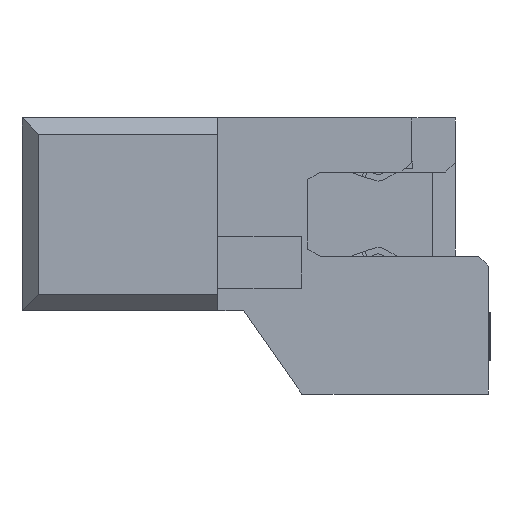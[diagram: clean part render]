
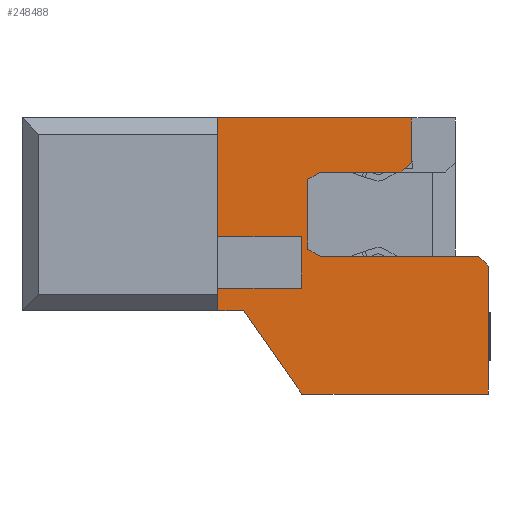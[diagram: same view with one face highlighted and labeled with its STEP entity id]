
A CAD part, left-side view. The second image highlights one B-rep face of the part: STEP entity #248488.
In plain terms, the highlighted planar face has unit normal (-1, 0, 0).
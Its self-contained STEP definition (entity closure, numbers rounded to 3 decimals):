
#3375 = VECTOR ( 'NONE', #8457, 1000. ) ;
#3383 = VECTOR ( 'NONE', #8533, 1000. ) ;
#3387 = LINE ( 'NONE', #8649, #3416 ) ;
#3390 = LINE ( 'NONE', #8492, #3375 ) ;
#3394 = VECTOR ( 'NONE', #8663, 1000. ) ;
#3396 = LINE ( 'NONE', #8440, #3394 ) ;
#3398 = LINE ( 'NONE', #8417, #3406 ) ;
#3401 = LINE ( 'NONE', #8279, #3426 ) ;
#3406 = VECTOR ( 'NONE', #8466, 1000. ) ;
#3407 = LINE ( 'NONE', #8551, #3383 ) ;
#3416 = VECTOR ( 'NONE', #8653, 1000. ) ;
#3426 = VECTOR ( 'NONE', #8446, 1000. ) ;
#3435 = LINE ( 'NONE', #8987, #3479 ) ;
#3440 = LINE ( 'NONE', #9021, #3458 ) ;
#3444 = VECTOR ( 'NONE', #8625, 1000. ) ;
#3446 = VECTOR ( 'NONE', #8676, 1000. ) ;
#3447 = LINE ( 'NONE', #8548, #3444 ) ;
#3458 = VECTOR ( 'NONE', #8902, 1000. ) ;
#3479 = VECTOR ( 'NONE', #9024, 1000. ) ;
#3482 = VECTOR ( 'NONE', #8686, 1000. ) ;
#3484 = LINE ( 'NONE', #8573, #3482 ) ;
#3489 = LINE ( 'NONE', #8832, #3446 ) ;
#3497 = LINE ( 'NONE', #9018, #3508 ) ;
#3504 = VECTOR ( 'NONE', #9138, 1000. ) ;
#3508 = VECTOR ( 'NONE', #8940, 1000. ) ;
#3516 = LINE ( 'NONE', #8953, #3504 ) ;
#8279 = CARTESIAN_POINT ( 'NONE',  ( -36.5, 2.8, -0.7 ) ) ;
#8417 = CARTESIAN_POINT ( 'NONE',  ( -36.5, 2.8, 12.822 ) ) ;
#8440 = CARTESIAN_POINT ( 'NONE',  ( -36.5, 0., 12.822 ) ) ;
#8446 = DIRECTION ( 'NONE',  ( 0., 1., 0. ) ) ;
#8457 = DIRECTION ( 'NONE',  ( 0., 0., 1. ) ) ;
#8466 = DIRECTION ( 'NONE',  ( 0., 0., -1. ) ) ;
#8492 = CARTESIAN_POINT ( 'NONE',  ( -36.5, 2.8, 12.822 ) ) ;
#8533 = DIRECTION ( 'NONE',  ( 0., 0.574, 0.819 ) ) ;
#8548 = CARTESIAN_POINT ( 'NONE',  ( -36.5, 2.8, -5.6 ) ) ;
#8551 = CARTESIAN_POINT ( 'NONE',  ( -36.5, 0.179, -5.6 ) ) ;
#8555 = LINE ( 'NONE', #174927, #8657 ) ;
#8573 = CARTESIAN_POINT ( 'NONE',  ( -36.5, 2.8, -1.315 ) ) ;
#8625 = DIRECTION ( 'NONE',  ( 0., 1., 0. ) ) ;
#8649 = CARTESIAN_POINT ( 'NONE',  ( -36.5, -3.23, 12.822 ) ) ;
#8653 = DIRECTION ( 'NONE',  ( 0., 0., -1. ) ) ;
#8657 = VECTOR ( 'NONE', #174897, 1000. ) ;
#8663 = DIRECTION ( 'NONE',  ( 0., 0., -1. ) ) ;
#8676 = DIRECTION ( 'NONE',  ( 0., 1., 0. ) ) ;
#8686 = DIRECTION ( 'NONE',  ( 0., -1., 0. ) ) ;
#8832 = CARTESIAN_POINT ( 'NONE',  ( -36.5, 2.8, 1.315 ) ) ;
#8902 = DIRECTION ( 'NONE',  ( 0., 0., 1. ) ) ;
#8940 = DIRECTION ( 'NONE',  ( 0., 0., -1. ) ) ;
#8953 = CARTESIAN_POINT ( 'NONE',  ( -36.5, 2.8, -2.3 ) ) ;
#8987 = CARTESIAN_POINT ( 'NONE',  ( -36.5, -3.23, 1.615 ) ) ;
#9018 = CARTESIAN_POINT ( 'NONE',  ( -36.5, -5.63, 12.822 ) ) ;
#9021 = CARTESIAN_POINT ( 'NONE',  ( -36.5, 0.2, 12.822 ) ) ;
#9024 = DIRECTION ( 'NONE',  ( 0., 0.707, -0.707 ) ) ;
#9138 = DIRECTION ( 'NONE',  ( 0., -1., 0. ) ) ;
#18904 = DIRECTION ( 'NONE',  ( 0., -0.866, -0.5 ) ) ;
#18920 = CARTESIAN_POINT ( 'NONE',  ( -36.5, -0.4, -1.315 ) ) ;
#19118 = CARTESIAN_POINT ( 'NONE',  ( -36.5, -5.33, -1.315 ) ) ;
#19140 = DIRECTION ( 'NONE',  ( 0., 0.707, 0.707 ) ) ;
#19174 = DIRECTION ( 'NONE',  ( 0., 0.866, -0.5 ) ) ;
#19189 = CARTESIAN_POINT ( 'NONE',  ( -36.5, -0.4, 1.315 ) ) ;
#38075 = VECTOR ( 'NONE', #81790, 1000. ) ;
#38148 = LINE ( 'NONE', #81813, #38075 ) ;
#63130 = EDGE_CURVE ( 'NONE', #87558, #87446, #8555, .T. ) ;
#79732 = EDGE_CURVE ( 'NONE', #86593, #86696, #119599, .T. ) ;
#79887 = EDGE_CURVE ( 'NONE', #86713, #86763, #119864, .T. ) ;
#79913 = EDGE_CURVE ( 'NONE', #86750, #86683, #119747, .T. ) ;
#81790 = DIRECTION ( 'NONE',  ( 0., 1., 0. ) ) ;
#81813 = CARTESIAN_POINT ( 'NONE',  ( -36.5, 8.9, -3. ) ) ;
#82881 = EDGE_CURVE ( 'NONE', #87461, #87504, #3401, .T. ) ;
#82893 = EDGE_CURVE ( 'NONE', #87504, #87446, #3390, .T. ) ;
#82929 = EDGE_CURVE ( 'NONE', #87414, #87421, #3398, .T. ) ;
#82958 = EDGE_CURVE ( 'NONE', #87558, #87448, #3387, .T. ) ;
#82963 = EDGE_CURVE ( 'NONE', #87463, #87436, #3407, .T. ) ;
#82973 = EDGE_CURVE ( 'NONE', #86683, #86593, #3396, .T. ) ;
#83030 = EDGE_CURVE ( 'NONE', #87433, #87463, #3447, .T. ) ;
#83054 = EDGE_CURVE ( 'NONE', #86696, #86763, #3484, .T. ) ;
#83075 = EDGE_CURVE ( 'NONE', #87404, #86750, #3489, .T. ) ;
#83158 = EDGE_CURVE ( 'NONE', #87434, #87461, #3440, .T. ) ;
#83167 = EDGE_CURVE ( 'NONE', #87448, #87404, #3435, .T. ) ;
#83190 = EDGE_CURVE ( 'NONE', #86713, #87433, #3497, .T. ) ;
#83265 = EDGE_CURVE ( 'NONE', #87414, #87434, #3516, .T. ) ;
#86593 = VERTEX_POINT ( 'NONE', #268176 ) ;
#86683 = VERTEX_POINT ( 'NONE', #268696 ) ;
#86696 = VERTEX_POINT ( 'NONE', #268764 ) ;
#86713 = VERTEX_POINT ( 'NONE', #268874 ) ;
#86750 = VERTEX_POINT ( 'NONE', #269062 ) ;
#86763 = VERTEX_POINT ( 'NONE', #269201 ) ;
#87404 = VERTEX_POINT ( 'NONE', #227090 ) ;
#87414 = VERTEX_POINT ( 'NONE', #227081 ) ;
#87421 = VERTEX_POINT ( 'NONE', #227052 ) ;
#87433 = VERTEX_POINT ( 'NONE', #227207 ) ;
#87434 = VERTEX_POINT ( 'NONE', #227210 ) ;
#87436 = VERTEX_POINT ( 'NONE', #227306 ) ;
#87446 = VERTEX_POINT ( 'NONE', #227334 ) ;
#87448 = VERTEX_POINT ( 'NONE', #227330 ) ;
#87461 = VERTEX_POINT ( 'NONE', #227476 ) ;
#87463 = VERTEX_POINT ( 'NONE', #227614 ) ;
#87504 = VERTEX_POINT ( 'NONE', #227772 ) ;
#87558 = VERTEX_POINT ( 'NONE', #228362 ) ;
#114644 = FACE_OUTER_BOUND ( 'NONE', #147731, .T. ) ;
#119599 = LINE ( 'NONE', #18920, #119685 ) ;
#119685 = VECTOR ( 'NONE', #18904, 1000. ) ;
#119747 = LINE ( 'NONE', #19189, #119759 ) ;
#119759 = VECTOR ( 'NONE', #19174, 1000. ) ;
#119767 = VECTOR ( 'NONE', #19140, 1000. ) ;
#119864 = LINE ( 'NONE', #19118, #119767 ) ;
#147731 = EDGE_LOOP ( 'NONE', ( #211363, #211671, #211423, #211679, #211686, #211525, #211369, #211592, #211692, #211579, #211491, #211664, #211335, #211485, #211637, #211538, #211472, #211444 ) ) ;
#174897 = DIRECTION ( 'NONE',  ( 0., 1., 0. ) ) ;
#174927 = CARTESIAN_POINT ( 'NONE',  ( -36.5, 2.8, 3. ) ) ;
#195256 = CARTESIAN_POINT ( 'NONE',  ( -36.5, 2.8, 12.822 ) ) ;
#195304 = PLANE ( 'NONE',  #261322 ) ;
#195307 = DIRECTION ( 'NONE',  ( 1., 0., 0. ) ) ;
#195326 = DIRECTION ( 'NONE',  ( 0., 0., -1. ) ) ;
#211335 = ORIENTED_EDGE ( 'NONE', *, *, #83167, .F. ) ;
#211363 = ORIENTED_EDGE ( 'NONE', *, *, #83265, .F. ) ;
#211369 = ORIENTED_EDGE ( 'NONE', *, *, #79887, .T. ) ;
#211423 = ORIENTED_EDGE ( 'NONE', *, *, #259801, .F. ) ;
#211444 = ORIENTED_EDGE ( 'NONE', *, *, #83158, .F. ) ;
#211472 = ORIENTED_EDGE ( 'NONE', *, *, #82881, .F. ) ;
#211485 = ORIENTED_EDGE ( 'NONE', *, *, #82958, .F. ) ;
#211491 = ORIENTED_EDGE ( 'NONE', *, *, #79913, .F. ) ;
#211525 = ORIENTED_EDGE ( 'NONE', *, *, #83190, .F. ) ;
#211538 = ORIENTED_EDGE ( 'NONE', *, *, #82893, .F. ) ;
#211579 = ORIENTED_EDGE ( 'NONE', *, *, #82973, .F. ) ;
#211592 = ORIENTED_EDGE ( 'NONE', *, *, #83054, .F. ) ;
#211637 = ORIENTED_EDGE ( 'NONE', *, *, #63130, .T. ) ;
#211664 = ORIENTED_EDGE ( 'NONE', *, *, #83075, .F. ) ;
#211671 = ORIENTED_EDGE ( 'NONE', *, *, #82929, .T. ) ;
#211679 = ORIENTED_EDGE ( 'NONE', *, *, #82963, .F. ) ;
#211686 = ORIENTED_EDGE ( 'NONE', *, *, #83030, .F. ) ;
#211692 = ORIENTED_EDGE ( 'NONE', *, *, #79732, .F. ) ;
#227052 = CARTESIAN_POINT ( 'NONE',  ( -36.5, 2.8, -3. ) ) ;
#227081 = CARTESIAN_POINT ( 'NONE',  ( -36.5, 2.8, -2.3 ) ) ;
#227090 = CARTESIAN_POINT ( 'NONE',  ( -36.5, -2.93, 1.315 ) ) ;
#227207 = CARTESIAN_POINT ( 'NONE',  ( -36.5, -5.63, -5.6 ) ) ;
#227210 = CARTESIAN_POINT ( 'NONE',  ( -36.5, 0.2, -2.3 ) ) ;
#227306 = CARTESIAN_POINT ( 'NONE',  ( -36.5, 2., -3. ) ) ;
#227330 = CARTESIAN_POINT ( 'NONE',  ( -36.5, -3.23, 1.615 ) ) ;
#227334 = CARTESIAN_POINT ( 'NONE',  ( -36.5, 2.8, 3. ) ) ;
#227476 = CARTESIAN_POINT ( 'NONE',  ( -36.5, 0.2, -0.7 ) ) ;
#227614 = CARTESIAN_POINT ( 'NONE',  ( -36.5, 0.179, -5.6 ) ) ;
#227772 = CARTESIAN_POINT ( 'NONE',  ( -36.5, 2.8, -0.7 ) ) ;
#228362 = CARTESIAN_POINT ( 'NONE',  ( -36.5, -3.23, 3. ) ) ;
#248488 = ADVANCED_FACE ( 'NONE', ( #114644 ), #195304, .F. ) ;
#259801 = EDGE_CURVE ( 'NONE', #87436, #87421, #38148, .T. ) ;
#261322 = AXIS2_PLACEMENT_3D ( 'NONE', #195256, #195307, #195326 ) ;
#268176 = CARTESIAN_POINT ( 'NONE',  ( -36.5, 0., -1.084 ) ) ;
#268696 = CARTESIAN_POINT ( 'NONE',  ( -36.5, 0., 1.084 ) ) ;
#268764 = CARTESIAN_POINT ( 'NONE',  ( -36.5, -0.4, -1.315 ) ) ;
#268874 = CARTESIAN_POINT ( 'NONE',  ( -36.5, -5.63, -1.615 ) ) ;
#269062 = CARTESIAN_POINT ( 'NONE',  ( -36.5, -0.4, 1.315 ) ) ;
#269201 = CARTESIAN_POINT ( 'NONE',  ( -36.5, -5.33, -1.315 ) ) ;
